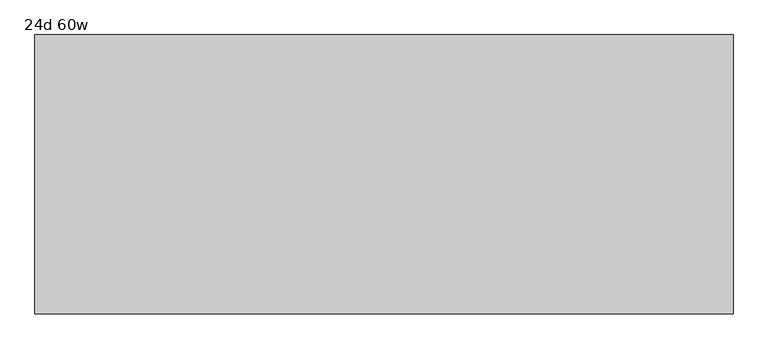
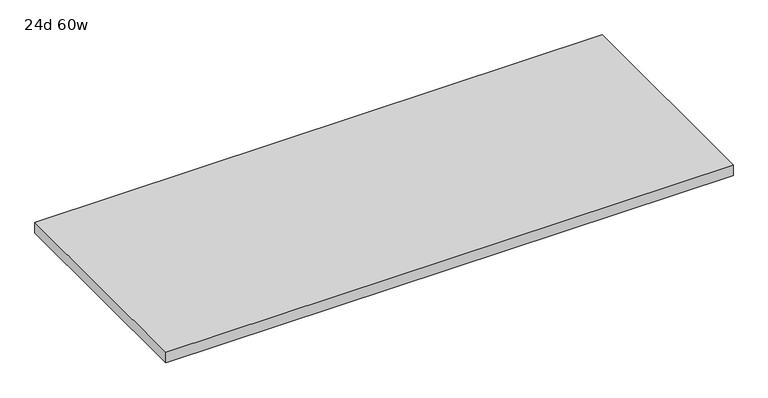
"""IFC4 building model written with IfcOpenShell, lengths in millimetres: furniture geometry, Haworth_Masters_StorageTop_Rectangular1 : 24d 60w."""

import ifcopenshell
import ifcopenshell.guid

model = None  # the IFC model being written
_history = None  # IfcOwnerHistory: only IFC2X3 demands one
_inside = {}  # id of a spatial element -> (the spatial element, [elements in it])
_under = {}  # id of a project, library or spatial element -> (it, [spatial elements below it])
_declared = {}  # id of a project -> (the project, [libraries it declares])
_typed = {}  # id of a type object -> (the type object, [elements of that type])
_made_of = {}  # id of a material, layer set ... -> (it, [elements and type objects made of it])


def new_model(schema):
    """Start an empty IFC model of exactly this schema.

    Asked for "IFC4X3", IfcOpenShell would pick the latest addendum, in which some entities
    have other attributes; the version numbers below select the first issue.
    IFC2X3 requires an IfcOwnerHistory on every rooted entity: one is made here for all.
    """
    global model, _history
    if schema == "IFC4X3":
        model = ifcopenshell.file(schema_version=(4, 3, 0, 0))
    else:
        model = ifcopenshell.file(schema=schema)
    _inside.clear()
    _under.clear()
    _declared.clear()
    _typed.clear()
    _made_of.clear()
    _history = None
    if model.schema == "IFC2X3":
        org = make("IfcOrganization", Name="unknown")
        user = make(
            "IfcPersonAndOrganization",
            ThePerson=make("IfcPerson", FamilyName="unknown"),
            TheOrganization=org,
        )
        app = make(
            "IfcApplication",
            ApplicationDeveloper=org,
            Version="unknown",
            ApplicationFullName="unknown",
            ApplicationIdentifier="unknown",
        )
        _history = make(
            "IfcOwnerHistory",
            OwningUser=user,
            OwningApplication=app,
            ChangeAction="ADDED",
            CreationDate=0,
        )
    return model


def make(cls, **values):
    """One entity of the class cls with the attributes given. An attribute that is None is left unset."""
    return model.create_entity(
        cls, **{name: value for name, value in values.items() if value is not None}
    )


def rooted(cls, **values):
    """An entity with a GlobalId (a new one), such as an element, a storey or a relation."""
    return make(cls, GlobalId=ifcopenshell.guid.new(), OwnerHistory=_history, **values)


def si_unit(unit_type, name, prefix=None):
    """IfcSIUnit, for example si_unit("LENGTHUNIT", "METRE", prefix="MILLI")."""
    return make("IfcSIUnit", UnitType=unit_type, Prefix=prefix, Name=name)


def assignment(units):
    """IfcUnitAssignment: the units of a project."""
    return None if units is None else make("IfcUnitAssignment", Units=units)


def point(xyz):
    """IfcCartesianPoint."""
    return None if xyz is None else make("IfcCartesianPoint", Coordinates=xyz)


def direction(xyz):
    """IfcDirection."""
    return None if xyz is None else make("IfcDirection", DirectionRatios=xyz)


def frame(location, z_axis=None, x_axis=None):
    """IfcAxis2Placement3D, a coordinate frame: its origin and axes. An axis left out is left unset."""
    return make(
        "IfcAxis2Placement3D",
        Location=point(location),
        Axis=direction(z_axis),
        RefDirection=direction(x_axis),
    )


def origin():
    """The frame at (0, 0, 0) with its axes left unset."""
    return frame((0.0, 0.0, 0.0))


def place(relative_to, where):
    """IfcLocalPlacement: puts the frame where relative to a parent placement (None: the world)."""
    return make(
        "IfcLocalPlacement", PlacementRelTo=relative_to, RelativePlacement=where
    )


def context(
    kind, dimensions, precision=None, world=None, true_north=None, identifier=None
):
    """IfcGeometricRepresentationContext, for example the 3D "Model" context."""
    return make(
        "IfcGeometricRepresentationContext",
        ContextIdentifier=identifier,
        ContextType=kind,
        CoordinateSpaceDimension=dimensions,
        Precision=precision,
        WorldCoordinateSystem=world,
        TrueNorth=true_north,
    )


def project(units=None, contexts=None):
    """IfcProject with its units and contexts."""
    return rooted(
        "IfcProject",
        Name="project",
        RepresentationContexts=contexts,
        UnitsInContext=assignment(units),
    )


def spatial(cls, under=None, at=None, **own):
    """A site, building, storey or space (cls), placed at a placement, below another one or the project."""
    s = rooted(cls, ObjectPlacement=at, **own)
    if under is not None:
        _under.setdefault(under.id(), (under, []))[1].append(s)
    return s


def polyline(points):
    """IfcPolyline through the points."""
    return make("IfcPolyline", Points=[point(p) for p in points])


def outline(outer, holes=None, kind="AREA"):
    """IfcArbitraryClosedProfileDef: a profile drawn as a closed curve; with holes, ...WithVoids."""
    if holes is None:
        return make("IfcArbitraryClosedProfileDef", ProfileType=kind, OuterCurve=outer)
    return make(
        "IfcArbitraryProfileDefWithVoids",
        ProfileType=kind,
        OuterCurve=outer,
        InnerCurves=holes,
    )


def extrude(swept, where, along, depth):
    """IfcExtrudedAreaSolid: the profile swept, set in the frame where, extruded along a direction by depth."""
    return make(
        "IfcExtrudedAreaSolid",
        SweptArea=swept,
        Position=where,
        ExtrudedDirection=direction(along),
        Depth=depth,
    )


def shape(context_of_items, identifier, shape_type, items):
    """IfcShapeRepresentation: the items that make up one representation, for example the "Body"."""
    return make(
        "IfcShapeRepresentation",
        ContextOfItems=context_of_items,
        RepresentationIdentifier=identifier,
        RepresentationType=shape_type,
        Items=items,
    )


def source(mapping_origin, context_of_items, identifier, shape_type, items):
    """IfcRepresentationMap: a shape defined once, which mapped items show again and again."""
    return make(
        "IfcRepresentationMap",
        MappingOrigin=mapping_origin,
        MappedRepresentation=shape(context_of_items, identifier, shape_type, items),
    )


def transform(
    local_origin,
    x_axis=None,
    y_axis=None,
    z_axis=None,
    scale=None,
    scale2=None,
    scale3=None,
    uniform=True,
):
    """IfcCartesianTransformationOperator3D, or its non-uniform kind. x_axis, y_axis, z_axis: its Axis1, 2, 3."""
    if uniform:
        return make(
            "IfcCartesianTransformationOperator3D",
            Axis1=direction(x_axis),
            Axis2=direction(y_axis),
            LocalOrigin=point(local_origin),
            Scale=scale,
            Axis3=direction(z_axis),
        )
    return make(
        "IfcCartesianTransformationOperator3DnonUniform",
        Axis1=direction(x_axis),
        Axis2=direction(y_axis),
        LocalOrigin=point(local_origin),
        Scale=scale,
        Axis3=direction(z_axis),
        Scale2=scale2,
        Scale3=scale3,
    )


def mapped(mapping_source, mapping_target):
    """IfcMappedItem: shows the shape of a source again, moved by a transform."""
    return make(
        "IfcMappedItem", MappingSource=mapping_source, MappingTarget=mapping_target
    )


def made_of(thing, what):
    """Note that an element or type object is made of a material, layer set ...; save() writes the relation."""
    if what is not None:
        _made_of.setdefault(what.id(), (what, []))[1].append(thing)
    return thing


def element(
    cls,
    number,
    at=None,
    inside=None,
    cuts=None,
    type_object=None,
    material=None,
    context=None,
    identifier="Body",
    shape_type=None,
    held_by="IfcProductDefinitionShape",
    body=None,
    shapes=None,
    **own,
):
    """One element of the class cls, such as IfcWall. Its Tag is "e" and its number.

    at: its placement. inside: the storey or other place that contains it. cuts: it is an
    opening in that element (IfcRelVoidsElement). A single representation is given by context,
    identifier, shape_type and body (its items); several are given by shapes. held_by: the class
    of the entity that holds the representations. save() writes the other relations.
    """
    e = rooted(cls, Tag="e%d" % number, ObjectPlacement=at, **own)
    if body is not None:
        shapes = [shape(context, identifier, shape_type, body)]
    if shapes is not None:
        e.Representation = make(held_by, Representations=shapes)
    if inside is not None:
        _inside.setdefault(inside.id(), (inside, []))[1].append(e)
    if cuts is not None:
        rooted(
            "IfcRelVoidsElement", RelatingBuildingElement=cuts, RelatedOpeningElement=e
        )
    if type_object is not None:
        _typed.setdefault(type_object.id(), (type_object, []))[1].append(e)
    return made_of(e, material)


def aggregate(whole, parts):
    """IfcRelAggregates: a whole, such as a stair, and the parts it consists of."""
    return rooted("IfcRelAggregates", RelatingObject=whole, RelatedObjects=parts)


def save(model, path):
    """Write the relations noted so far, then the file.

    IfcRelAggregates (storeys below a building ...), IfcRelContainedInSpatialStructure (elements
    in a storey), IfcRelDefinesByType, IfcRelAssociatesMaterial and IfcRelDeclares: one each for
    every whole, place, type object, material and project.
    """
    for whole, parts in _under.values():
        aggregate(whole, parts)
    for where, things in _inside.values():
        rooted(
            "IfcRelContainedInSpatialStructure",
            RelatedElements=things,
            RelatingStructure=where,
        )
    for kind, things in _typed.values():
        rooted("IfcRelDefinesByType", RelatedObjects=things, RelatingType=kind)
    for what, things in _made_of.values():
        rooted("IfcRelAssociatesMaterial", RelatedObjects=things, RelatingMaterial=what)
    for by, libraries in _declared.values():
        rooted("IfcRelDeclares", RelatingContext=by, RelatedDefinitions=libraries)
    model.write(path)


def furniture_24d_60w_0d21047a(model_context):
    return source(origin(), model_context, "Body", "SweptSolid", [
        extrude(outline(polyline([(-23.8125, 407.9875), (-23.8125, 1017.5875), (1500.1875, 1017.5875), (1500.1875, 407.9875), (-23.8125, 407.9875)])), frame((0.0, 0.0, 693.7375), z_axis=(0.0, 0.0, 1.0), x_axis=(1.0, 0.0, 0.0)), (0.0, 0.0, 1.0), 30.1625),
    ])


if __name__ == "__main__":
    model = new_model("IFC4")
    model_context = context("Model", 3, world=origin())
    ifc_project = project(units=[si_unit("LENGTHUNIT", "METRE", prefix="MILLI")], contexts=[model_context])
    site = spatial("IfcSite", under=ifc_project)
    building = spatial("IfcBuilding", under=site)
    placement = place(None, origin())
    furniture_24d_60w_shape = furniture_24d_60w_0d21047a(model_context)
    element("IfcFurniture", 1, ObjectType="Haworth_Masters_StorageTop_Rectangular1 : 24d 60w", at=placement, inside=building, context=model_context, shape_type="MappedRepresentation", body=[
        mapped(furniture_24d_60w_shape, transform((0.0, 0.0, 0.0), x_axis=(1.0, 0.0, 0.0), y_axis=(0.0, 1.0, 0.0), z_axis=(0.0, 0.0, 1.0))),
    ])
    save(model, "model.ifc")
